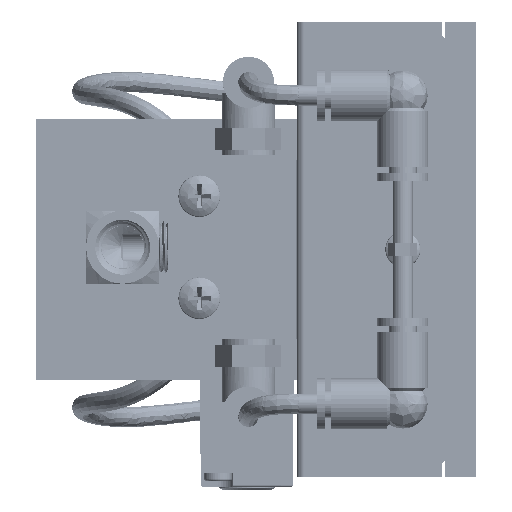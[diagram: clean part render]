
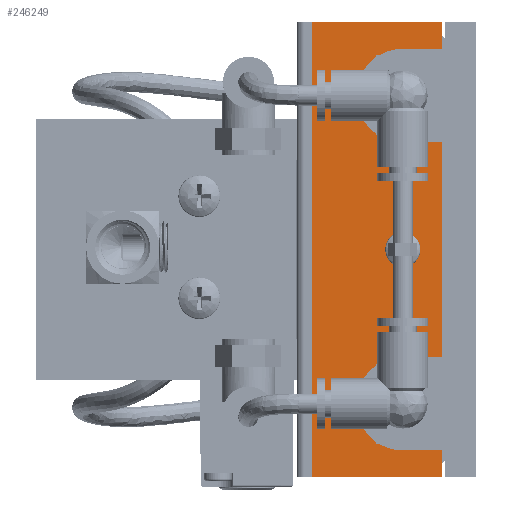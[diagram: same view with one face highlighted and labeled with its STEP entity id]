
A CAD part, left-side view. The second image highlights one B-rep face of the part: STEP entity #246249.
In plain terms, the highlighted planar face has unit normal (-1, 0, 0).
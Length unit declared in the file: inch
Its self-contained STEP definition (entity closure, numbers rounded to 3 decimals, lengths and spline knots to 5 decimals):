
#10863 = DIRECTION ( 'NONE',  ( 0., 0., 1. ) ) ;
#14306 = CARTESIAN_POINT ( 'NONE',  ( -2.5947, 0.2625, -1.5465 ) ) ;
#17300 = CARTESIAN_POINT ( 'NONE',  ( -2.5947, 0.5625, -0.078 ) ) ;
#19709 = VECTOR ( 'NONE', #251505, 39.37008 ) ;
#20262 = CARTESIAN_POINT ( 'NONE',  ( -2.5947, 0.5625, 0.078 ) ) ;
#20395 = FACE_BOUND ( 'NONE', #232256, .T. ) ;
#20974 = CARTESIAN_POINT ( 'NONE',  ( -2.5947, 0.5625, 0.8285 ) ) ;
#21007 = DIRECTION ( 'NONE',  ( 0., 1., 0. ) ) ;
#21724 = VERTEX_POINT ( 'NONE', #33516 ) ;
#21852 = EDGE_CURVE ( 'NONE', #21724, #231906, #22846, .T. ) ;
#22846 = LINE ( 'NONE', #295799, #320193 ) ;
#28571 = ORIENTED_EDGE ( 'NONE', *, *, #262124, .T. ) ;
#29499 = ORIENTED_EDGE ( 'NONE', *, *, #80148, .F. ) ;
#33488 = ORIENTED_EDGE ( 'NONE', *, *, #21852, .T. ) ;
#33516 = CARTESIAN_POINT ( 'NONE',  ( -2.5947, 0.2625, 1.75 ) ) ;
#34197 = VERTEX_POINT ( 'NONE', #14306 ) ;
#36605 = CARTESIAN_POINT ( 'NONE',  ( -2.5947, 1.2625, -1.75 ) ) ;
#37203 = CARTESIAN_POINT ( 'NONE',  ( -2.5947, 0.5625, 0. ) ) ;
#42824 = CIRCLE ( 'NONE', #250824, 0.078 ) ;
#44273 = DIRECTION ( 'NONE',  ( 0., 1., 0. ) ) ;
#47306 = CARTESIAN_POINT ( 'NONE',  ( -2.5947, 0.5625, -0.8285 ) ) ;
#48907 = VECTOR ( 'NONE', #129823, 39.37008 ) ;
#50017 = VERTEX_POINT ( 'NONE', #17300 ) ;
#61950 = DIRECTION ( 'NONE',  ( -1., 0., 0. ) ) ;
#62004 = LINE ( 'NONE', #272722, #19709 ) ;
#63591 = DIRECTION ( 'NONE',  ( -1., 0., 0. ) ) ;
#64594 = CARTESIAN_POINT ( 'NONE',  ( -2.5947, 0.2625, 0.8285 ) ) ;
#67614 = FACE_OUTER_BOUND ( 'NONE', #247598, .T. ) ;
#74801 = LINE ( 'NONE', #312428, #126833 ) ;
#80148 = EDGE_CURVE ( 'NONE', #50017, #247259, #42824, .T. ) ;
#83588 = VERTEX_POINT ( 'NONE', #36605 ) ;
#91422 = LINE ( 'NONE', #148111, #322638 ) ;
#93972 = DIRECTION ( 'NONE',  ( 0., 0., 1. ) ) ;
#96365 = EDGE_CURVE ( 'NONE', #264474, #367401, #384077, .T. ) ;
#96982 = CIRCLE ( 'NONE', #178220, 0.359 ) ;
#108964 = ORIENTED_EDGE ( 'NONE', *, *, #263067, .F. ) ;
#112584 = ORIENTED_EDGE ( 'NONE', *, *, #283909, .T. ) ;
#113263 = ORIENTED_EDGE ( 'NONE', *, *, #96365, .T. ) ;
#124540 = CARTESIAN_POINT ( 'NONE',  ( -2.5947, 0.5625, 1.5465 ) ) ;
#126833 = VECTOR ( 'NONE', #134570, 39.37008 ) ;
#129823 = DIRECTION ( 'NONE',  ( 0., 0., 1. ) ) ;
#134570 = DIRECTION ( 'NONE',  ( 0., 0., -1. ) ) ;
#144309 = DIRECTION ( 'NONE',  ( 0., 1., 0. ) ) ;
#147591 = VERTEX_POINT ( 'NONE', #225332 ) ;
#148111 = CARTESIAN_POINT ( 'NONE',  ( -2.5947, 0.2625, -1.75 ) ) ;
#149950 = EDGE_CURVE ( 'NONE', #247259, #50017, #278126, .T. ) ;
#150565 = DIRECTION ( 'NONE',  ( 0., 0., -1. ) ) ;
#153517 = CARTESIAN_POINT ( 'NONE',  ( -2.5947, 0.5625, 1.1875 ) ) ;
#156120 = DIRECTION ( 'NONE',  ( 0., 0., -1. ) ) ;
#157406 = DIRECTION ( 'NONE',  ( 0., 0., 1. ) ) ;
#158570 = CARTESIAN_POINT ( 'NONE',  ( -2.5947, 0.5625, -1.1875 ) ) ;
#173132 = ORIENTED_EDGE ( 'NONE', *, *, #348482, .F. ) ;
#177920 = DIRECTION ( 'NONE',  ( -1., 0., 0. ) ) ;
#178220 = AXIS2_PLACEMENT_3D ( 'NONE', #158570, #61950, #150565 ) ;
#181195 = CIRCLE ( 'NONE', #360440, 0.359 ) ;
#181418 = ORIENTED_EDGE ( 'NONE', *, *, #200699, .F. ) ;
#181815 = DIRECTION ( 'NONE',  ( 0., 0., 1. ) ) ;
#183766 = CARTESIAN_POINT ( 'NONE',  ( -2.5947, 0.2625, 1.5465 ) ) ;
#187760 = EDGE_CURVE ( 'NONE', #210860, #21724, #388469, .T. ) ;
#188994 = DIRECTION ( 'NONE',  ( 0., 0., 1. ) ) ;
#189019 = PLANE ( 'NONE',  #352200 ) ;
#191670 = VERTEX_POINT ( 'NONE', #124540 ) ;
#193049 = ORIENTED_EDGE ( 'NONE', *, *, #187760, .T. ) ;
#200699 = EDGE_CURVE ( 'NONE', #210860, #191670, #204421, .T. ) ;
#204421 = LINE ( 'NONE', #314591, #275062 ) ;
#210860 = VERTEX_POINT ( 'NONE', #183766 ) ;
#225332 = CARTESIAN_POINT ( 'NONE',  ( -2.5947, 0.5625, -1.5465 ) ) ;
#226419 = LINE ( 'NONE', #284547, #231312 ) ;
#231312 = VECTOR ( 'NONE', #312234, 39.37008 ) ;
#231906 = VERTEX_POINT ( 'NONE', #337320 ) ;
#232256 = EDGE_LOOP ( 'NONE', ( #300441, #29499 ) ) ;
#237703 = DIRECTION ( 'NONE',  ( 0., -1., 0. ) ) ;
#238231 = VERTEX_POINT ( 'NONE', #20974 ) ;
#243585 = CARTESIAN_POINT ( 'NONE',  ( -2.5947, 0.2625, -1.75 ) ) ;
#244022 = VERTEX_POINT ( 'NONE', #47306 ) ;
#246249 = ADVANCED_FACE ( 'NONE', ( #20395, #67614 ), #189019, .F. ) ;
#247259 = VERTEX_POINT ( 'NONE', #20262 ) ;
#247598 = EDGE_LOOP ( 'NONE', ( #257513, #181418, #193049, #33488, #288600, #28571, #112584, #267475, #173132, #383157, #113263, #108964 ) ) ;
#250824 = AXIS2_PLACEMENT_3D ( 'NONE', #37203, #368080, #188994 ) ;
#251505 = DIRECTION ( 'NONE',  ( 0., -1., 0. ) ) ;
#257513 = ORIENTED_EDGE ( 'NONE', *, *, #365554, .F. ) ;
#262124 = EDGE_CURVE ( 'NONE', #83588, #367889, #91422, .T. ) ;
#263067 = EDGE_CURVE ( 'NONE', #238231, #367401, #62004, .T. ) ;
#264474 = VERTEX_POINT ( 'NONE', #366157 ) ;
#266314 = LINE ( 'NONE', #337978, #317970 ) ;
#267474 = CARTESIAN_POINT ( 'NONE',  ( -2.5947, 0.5625, 0. ) ) ;
#267475 = ORIENTED_EDGE ( 'NONE', *, *, #328158, .F. ) ;
#272722 = CARTESIAN_POINT ( 'NONE',  ( -2.5947, 0.5625, 0.8285 ) ) ;
#274171 = EDGE_CURVE ( 'NONE', #231906, #83588, #74801, .T. ) ;
#275062 = VECTOR ( 'NONE', #44273, 39.37008 ) ;
#278126 = CIRCLE ( 'NONE', #344691, 0.078 ) ;
#283909 = EDGE_CURVE ( 'NONE', #367889, #34197, #266314, .T. ) ;
#284547 = CARTESIAN_POINT ( 'NONE',  ( -2.5947, 0.2625, -1.5465 ) ) ;
#288600 = ORIENTED_EDGE ( 'NONE', *, *, #274171, .T. ) ;
#295799 = CARTESIAN_POINT ( 'NONE',  ( -2.5947, 0.2625, 1.75 ) ) ;
#298770 = VECTOR ( 'NONE', #157406, 39.37008 ) ;
#300441 = ORIENTED_EDGE ( 'NONE', *, *, #149950, .F. ) ;
#304901 = DIRECTION ( 'NONE',  ( 1., 0., 0. ) ) ;
#310103 = CARTESIAN_POINT ( 'NONE',  ( -2.5947, 0.2625, -1.75 ) ) ;
#310322 = CARTESIAN_POINT ( 'NONE',  ( -2.5947, 0.2625, -1.75 ) ) ;
#312234 = DIRECTION ( 'NONE',  ( 0., -1., 0. ) ) ;
#312428 = CARTESIAN_POINT ( 'NONE',  ( -2.5947, 1.2625, -1.75 ) ) ;
#314591 = CARTESIAN_POINT ( 'NONE',  ( -2.5947, 0.2625, 1.5465 ) ) ;
#317970 = VECTOR ( 'NONE', #10863, 39.37008 ) ;
#320193 = VECTOR ( 'NONE', #144309, 39.37008 ) ;
#322638 = VECTOR ( 'NONE', #237703, 39.37008 ) ;
#328158 = EDGE_CURVE ( 'NONE', #147591, #34197, #226419, .T. ) ;
#333440 = EDGE_CURVE ( 'NONE', #264474, #244022, #383596, .T. ) ;
#333942 = CARTESIAN_POINT ( 'NONE',  ( -2.5947, 1.2625, -1.75 ) ) ;
#337320 = CARTESIAN_POINT ( 'NONE',  ( -2.5947, 1.2625, 1.75 ) ) ;
#337978 = CARTESIAN_POINT ( 'NONE',  ( -2.5947, 0.2625, -1.75 ) ) ;
#344691 = AXIS2_PLACEMENT_3D ( 'NONE', #267474, #177920, #181815 ) ;
#348482 = EDGE_CURVE ( 'NONE', #244022, #147591, #96982, .T. ) ;
#352200 = AXIS2_PLACEMENT_3D ( 'NONE', #333942, #304901, #156120 ) ;
#360440 = AXIS2_PLACEMENT_3D ( 'NONE', #153517, #63591, #93972 ) ;
#365554 = EDGE_CURVE ( 'NONE', #191670, #238231, #181195, .T. ) ;
#366157 = CARTESIAN_POINT ( 'NONE',  ( -2.5947, 0.2625, -0.8285 ) ) ;
#367401 = VERTEX_POINT ( 'NONE', #64594 ) ;
#367889 = VERTEX_POINT ( 'NONE', #243585 ) ;
#368080 = DIRECTION ( 'NONE',  ( -1., 0., 0. ) ) ;
#382202 = CARTESIAN_POINT ( 'NONE',  ( -2.5947, 0.5625, -0.8285 ) ) ;
#383157 = ORIENTED_EDGE ( 'NONE', *, *, #333440, .F. ) ;
#383596 = LINE ( 'NONE', #382202, #388579 ) ;
#384077 = LINE ( 'NONE', #310322, #48907 ) ;
#388469 = LINE ( 'NONE', #310103, #298770 ) ;
#388579 = VECTOR ( 'NONE', #21007, 39.37008 ) ;
